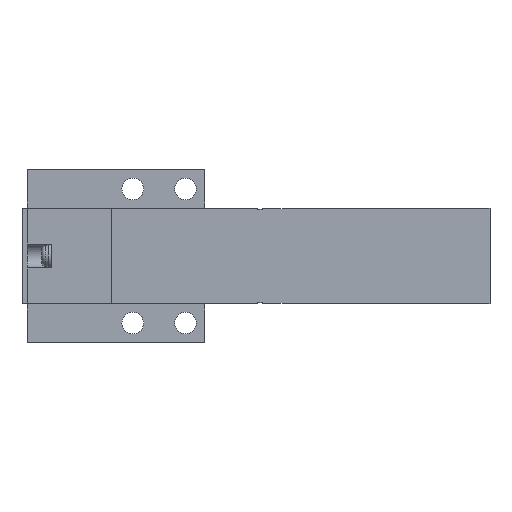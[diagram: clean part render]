
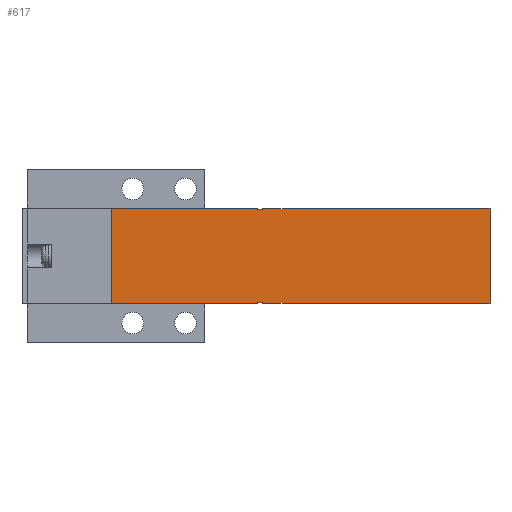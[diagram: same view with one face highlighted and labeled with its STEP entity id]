
A CAD part, front view. The second image highlights one B-rep face of the part: STEP entity #617.
In plain terms, the highlighted planar face has unit normal (0, -1, 0).
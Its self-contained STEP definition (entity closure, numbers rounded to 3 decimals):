
#617=ADVANCED_FACE('',(#1347),#1348,.F.);
#1347=FACE_OUTER_BOUND('',#2232,.T.);
#1348=PLANE('',#2233);
#2232=EDGE_LOOP('',(#4899,#4900,#4901,#4902,#4903,#4904,#4905,#4906,#4907,#4908,#4909,#4910,#4911,#4912,#4913,#4914,#4915,#4916,#4917,#4918,#4919,#4920,#4921,#4922));
#2233=AXIS2_PLACEMENT_3D('',#4923,#4924,#4925);
#4899=ORIENTED_EDGE('',*,*,#6622,.F.);
#4900=ORIENTED_EDGE('',*,*,#6497,.T.);
#4901=ORIENTED_EDGE('',*,*,#6623,.T.);
#4902=ORIENTED_EDGE('',*,*,#6624,.F.);
#4903=ORIENTED_EDGE('',*,*,#6625,.F.);
#4904=ORIENTED_EDGE('',*,*,#6554,.T.);
#4905=ORIENTED_EDGE('',*,*,#6626,.F.);
#4906=ORIENTED_EDGE('',*,*,#6627,.T.);
#4907=ORIENTED_EDGE('',*,*,#6628,.F.);
#4908=ORIENTED_EDGE('',*,*,#6609,.T.);
#4909=ORIENTED_EDGE('',*,*,#6629,.T.);
#4910=ORIENTED_EDGE('',*,*,#6630,.T.);
#4911=ORIENTED_EDGE('',*,*,#6528,.T.);
#4912=ORIENTED_EDGE('',*,*,#6631,.F.);
#4913=ORIENTED_EDGE('',*,*,#6632,.T.);
#4914=ORIENTED_EDGE('',*,*,#6633,.F.);
#4915=ORIENTED_EDGE('',*,*,#6603,.T.);
#4916=ORIENTED_EDGE('',*,*,#6493,.T.);
#4917=ORIENTED_EDGE('',*,*,#6634,.T.);
#4918=ORIENTED_EDGE('',*,*,#6635,.T.);
#4919=ORIENTED_EDGE('',*,*,#6636,.T.);
#4920=ORIENTED_EDGE('',*,*,#6637,.F.);
#4921=ORIENTED_EDGE('',*,*,#6520,.F.);
#4922=ORIENTED_EDGE('',*,*,#6638,.F.);
#4923=CARTESIAN_POINT('',(18.6,0.0,10.0));
#4924=DIRECTION('',(-0.0,1.0,0.0));
#4925=DIRECTION('',(1.0,0.0,0.0));
#6493=EDGE_CURVE('',#8024,#8022,#8025,.T.);
#6497=EDGE_CURVE('',#8017,#8030,#8032,.T.);
#6520=EDGE_CURVE('',#8071,#8074,#8075,.T.);
#6528=EDGE_CURVE('',#8090,#8088,#8091,.T.);
#6554=EDGE_CURVE('',#8137,#8135,#8138,.T.);
#6603=EDGE_CURVE('',#8215,#8024,#8219,.T.);
#6609=EDGE_CURVE('',#8229,#8227,#8230,.T.);
#6622=EDGE_CURVE('',#8017,#8250,#8251,.T.);
#6623=EDGE_CURVE('',#8030,#8252,#8253,.T.);
#6624=EDGE_CURVE('',#8254,#8252,#8255,.T.);
#6625=EDGE_CURVE('',#8137,#8254,#8256,.T.);
#6626=EDGE_CURVE('',#8257,#8135,#8258,.T.);
#6627=EDGE_CURVE('',#8257,#8259,#8260,.T.);
#6628=EDGE_CURVE('',#8229,#8259,#8261,.T.);
#6629=EDGE_CURVE('',#8227,#8262,#8263,.T.);
#6630=EDGE_CURVE('',#8262,#8090,#8264,.T.);
#6631=EDGE_CURVE('',#8265,#8088,#8266,.T.);
#6632=EDGE_CURVE('',#8265,#8267,#8268,.T.);
#6633=EDGE_CURVE('',#8215,#8267,#8269,.T.);
#6634=EDGE_CURVE('',#8022,#8270,#8271,.T.);
#6635=EDGE_CURVE('',#8270,#8272,#8273,.T.);
#6636=EDGE_CURVE('',#8272,#8274,#8275,.T.);
#6637=EDGE_CURVE('',#8074,#8274,#8276,.T.);
#6638=EDGE_CURVE('',#8250,#8071,#8277,.T.);
#8017=VERTEX_POINT('',#10475);
#8022=VERTEX_POINT('',#10482);
#8024=VERTEX_POINT('',#10485);
#8025=LINE('',#10486,#10487);
#8030=VERTEX_POINT('',#10494);
#8032=LINE('',#10497,#10498);
#8071=VERTEX_POINT('',#10554);
#8074=VERTEX_POINT('',#10558);
#8075=LINE('',#10559,#10560);
#8088=VERTEX_POINT('',#10579);
#8090=VERTEX_POINT('',#10582);
#8091=LINE('',#10583,#10584);
#8135=VERTEX_POINT('',#10693);
#8137=VERTEX_POINT('',#10696);
#8138=LINE('',#10697,#10698);
#8215=VERTEX_POINT('',#10817);
#8219=LINE('',#10823,#10824);
#8227=VERTEX_POINT('',#10836);
#8229=VERTEX_POINT('',#10839);
#8230=LINE('',#10840,#10841);
#8250=VERTEX_POINT('',#10873);
#8251=LINE('',#10874,#10875);
#8252=VERTEX_POINT('',#10876);
#8253=LINE('',#10877,#10878);
#8254=VERTEX_POINT('',#10879);
#8255=LINE('',#10880,#10881);
#8256=LINE('',#10882,#10883);
#8257=VERTEX_POINT('',#10884);
#8258=LINE('',#10885,#10886);
#8259=VERTEX_POINT('',#10887);
#8260=LINE('',#10888,#10889);
#8261=LINE('',#10890,#10891);
#8262=VERTEX_POINT('',#10892);
#8263=LINE('',#10893,#10894);
#8264=LINE('',#10895,#10896);
#8265=VERTEX_POINT('',#10897);
#8266=LINE('',#10898,#10899);
#8267=VERTEX_POINT('',#10900);
#8268=LINE('',#10901,#10902);
#8269=LINE('',#10903,#10904);
#8270=VERTEX_POINT('',#10905);
#8271=LINE('',#10906,#10907);
#8272=VERTEX_POINT('',#10908);
#8273=LINE('',#10909,#10910);
#8274=VERTEX_POINT('',#10911);
#8275=LINE('',#10912,#10913);
#8276=LINE('',#10914,#10915);
#8277=LINE('',#10916,#10917);
#10475=CARTESIAN_POINT('',(50.1,0.0,9.9));
#10482=CARTESIAN_POINT('',(50.1,0.0,-9.9));
#10485=CARTESIAN_POINT('',(50.1,0.0,-9.8));
#10486=CARTESIAN_POINT('',(50.1,0.0,10.0));
#10487=VECTOR('',#12263,1.0);
#10494=CARTESIAN_POINT('',(50.1,0.0,9.8));
#10497=CARTESIAN_POINT('',(50.1,0.0,10.0));
#10498=VECTOR('',#12267,1.0);
#10554=CARTESIAN_POINT('',(55.1,0.0,10.0));
#10558=CARTESIAN_POINT('',(97.6,0.0,10.0));
#10559=CARTESIAN_POINT('',(18.6,0.0,10.0));
#10560=VECTOR('',#12298,1.0);
#10579=CARTESIAN_POINT('',(44.1,0.0,-10.0));
#10582=CARTESIAN_POINT('',(35.1,0.0,-10.0));
#10583=CARTESIAN_POINT('',(18.6,0.0,-10.0));
#10584=VECTOR('',#12306,1.0);
#10693=CARTESIAN_POINT('',(44.1,0.0,10.0));
#10696=CARTESIAN_POINT('',(44.1,0.0,9.9));
#10697=CARTESIAN_POINT('',(44.1,0.0,9.9));
#10698=VECTOR('',#12344,1.0);
#10817=CARTESIAN_POINT('',(49.1,0.0,-9.8));
#10823=CARTESIAN_POINT('',(18.6,0.0,-9.8));
#10824=VECTOR('',#12398,1.0);
#10836=CARTESIAN_POINT('',(18.6,0.0,-9.9));
#10839=CARTESIAN_POINT('',(18.6,0.0,9.9));
#10840=CARTESIAN_POINT('',(18.6,0.0,10.0));
#10841=VECTOR('',#12404,1.0);
#10873=CARTESIAN_POINT('',(55.1,0.0,9.9));
#10874=CARTESIAN_POINT('',(44.1,0.0,9.9));
#10875=VECTOR('',#12417,1.0);
#10876=CARTESIAN_POINT('',(49.1,0.0,9.8));
#10877=CARTESIAN_POINT('',(18.6,0.0,9.8));
#10878=VECTOR('',#12418,1.0);
#10879=CARTESIAN_POINT('',(49.1,0.0,9.9));
#10880=CARTESIAN_POINT('',(49.1,0.0,10.0));
#10881=VECTOR('',#12419,1.0);
#10882=CARTESIAN_POINT('',(44.1,0.0,9.9));
#10883=VECTOR('',#12420,1.0);
#10884=CARTESIAN_POINT('',(35.1,0.0,10.0));
#10885=CARTESIAN_POINT('',(18.6,0.0,10.0));
#10886=VECTOR('',#12421,1.0);
#10887=CARTESIAN_POINT('',(35.1,0.0,9.9));
#10888=CARTESIAN_POINT('',(35.1,0.0,10.1));
#10889=VECTOR('',#12422,1.0);
#10890=CARTESIAN_POINT('',(18.6,0.0,9.9));
#10891=VECTOR('',#12423,1.0);
#10892=CARTESIAN_POINT('',(35.1,0.0,-9.9));
#10893=CARTESIAN_POINT('',(18.6,0.0,-9.9));
#10894=VECTOR('',#12424,1.0);
#10895=CARTESIAN_POINT('',(35.1,0.0,-9.9));
#10896=VECTOR('',#12425,1.0);
#10897=CARTESIAN_POINT('',(44.1,0.0,-9.9));
#10898=CARTESIAN_POINT('',(44.1,0.0,-9.9));
#10899=VECTOR('',#12426,1.0);
#10900=CARTESIAN_POINT('',(49.1,0.0,-9.9));
#10901=CARTESIAN_POINT('',(44.1,0.0,-9.9));
#10902=VECTOR('',#12427,1.0);
#10903=CARTESIAN_POINT('',(49.1,0.0,10.0));
#10904=VECTOR('',#12428,1.0);
#10905=CARTESIAN_POINT('',(55.1,0.0,-9.9));
#10906=CARTESIAN_POINT('',(44.1,0.0,-9.9));
#10907=VECTOR('',#12429,1.0);
#10908=CARTESIAN_POINT('',(55.1,0.0,-10.0));
#10909=CARTESIAN_POINT('',(55.1,0.0,-9.9));
#10910=VECTOR('',#12430,1.0);
#10911=CARTESIAN_POINT('',(97.6,0.0,-10.0));
#10912=CARTESIAN_POINT('',(18.6,0.0,-10.0));
#10913=VECTOR('',#12431,1.0);
#10914=CARTESIAN_POINT('',(97.6,0.0,10.0));
#10915=VECTOR('',#12432,1.0);
#10916=CARTESIAN_POINT('',(55.1,0.0,9.9));
#10917=VECTOR('',#12433,1.0);
#12263=DIRECTION('',(0.0,0.0,-1.0));
#12267=DIRECTION('',(0.0,0.0,-1.0));
#12298=DIRECTION('',(1.0,0.0,0.0));
#12306=DIRECTION('',(1.0,0.0,0.0));
#12344=DIRECTION('',(0.0,0.0,1.0));
#12398=DIRECTION('',(1.0,0.0,0.0));
#12404=DIRECTION('',(0.0,0.0,-1.0));
#12417=DIRECTION('',(1.0,0.0,0.0));
#12418=DIRECTION('',(-1.0,0.0,0.0));
#12419=DIRECTION('',(0.0,0.0,-1.0));
#12420=DIRECTION('',(1.0,0.0,0.0));
#12421=DIRECTION('',(1.0,0.0,0.0));
#12422=DIRECTION('',(0.0,0.0,-1.0));
#12423=DIRECTION('',(1.0,0.0,0.0));
#12424=DIRECTION('',(1.0,0.0,0.0));
#12425=DIRECTION('',(0.0,0.0,-1.0));
#12426=DIRECTION('',(0.0,0.0,-1.0));
#12427=DIRECTION('',(1.0,0.0,0.0));
#12428=DIRECTION('',(0.0,0.0,-1.0));
#12429=DIRECTION('',(1.0,0.0,0.0));
#12430=DIRECTION('',(0.0,0.0,-1.0));
#12431=DIRECTION('',(1.0,0.0,0.0));
#12432=DIRECTION('',(0.0,0.0,-1.0));
#12433=DIRECTION('',(0.0,0.0,1.0));
